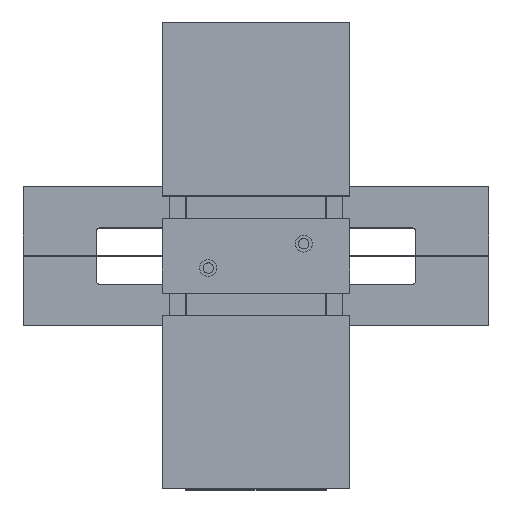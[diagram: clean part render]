
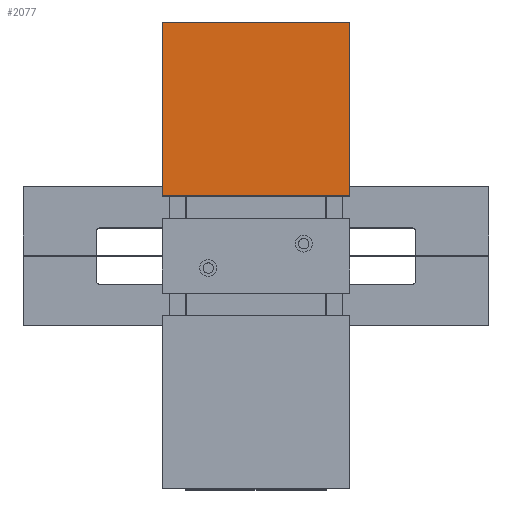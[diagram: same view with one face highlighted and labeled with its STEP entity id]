
A CAD part, top view. The second image highlights one B-rep face of the part: STEP entity #2077.
In plain terms, the highlighted planar face has unit normal (0, 0, 1).
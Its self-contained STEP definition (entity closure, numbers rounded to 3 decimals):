
#2077 = ADVANCED_FACE( '', ( #5460 ), #5461, .T. );
#5460 = FACE_OUTER_BOUND( '', #9431, .T. );
#5461 = PLANE( '', #9432 );
#9431 = EDGE_LOOP( '', ( #23860, #23861, #23862, #23863 ) );
#9432 = AXIS2_PLACEMENT_3D( '', #23864, #23865, #23866 );
#23860 = ORIENTED_EDGE( '', *, *, #29585, .T. );
#23861 = ORIENTED_EDGE( '', *, *, #29622, .T. );
#23862 = ORIENTED_EDGE( '', *, *, #29626, .T. );
#23863 = ORIENTED_EDGE( '', *, *, #29617, .T. );
#23864 = CARTESIAN_POINT( '', ( -92.5, -100., 49. ) );
#23865 = DIRECTION( '', ( 0., 0., 1. ) );
#23866 = DIRECTION( '', ( 1., 0., 0. ) );
#29585 = EDGE_CURVE( '', #36694, #36692, #36695, .T. );
#29617 = EDGE_CURVE( '', #36751, #36694, #36752, .T. );
#29622 = EDGE_CURVE( '', #36692, #36758, #36760, .T. );
#29626 = EDGE_CURVE( '', #36758, #36751, #36766, .T. );
#36692 = VERTEX_POINT( '', #50791 );
#36694 = VERTEX_POINT( '', #50794 );
#36695 = LINE( '', #50795, #50796 );
#36751 = VERTEX_POINT( '', #50872 );
#36752 = LINE( '', #50873, #50874 );
#36758 = VERTEX_POINT( '', #50882 );
#36760 = LINE( '', #50885, #50886 );
#36766 = LINE( '', #50894, #50895 );
#50791 = CARTESIAN_POINT( '', ( -92.5, -100., 49. ) );
#50794 = CARTESIAN_POINT( '', ( -92.5, 100., 49. ) );
#50795 = CARTESIAN_POINT( '', ( -92.5, 100., 49. ) );
#50796 = VECTOR( '', #56507, 1000. );
#50872 = CARTESIAN_POINT( '', ( 92.5, 100., 49. ) );
#50873 = CARTESIAN_POINT( '', ( 92.5, 100., 49. ) );
#50874 = VECTOR( '', #56561, 1000. );
#50882 = CARTESIAN_POINT( '', ( 92.5, -100., 49. ) );
#50885 = CARTESIAN_POINT( '', ( -92.5, -100., 49. ) );
#50886 = VECTOR( '', #56568, 1000. );
#50894 = CARTESIAN_POINT( '', ( 92.5, -100., 49. ) );
#50895 = VECTOR( '', #56574, 1000. );
#56507 = DIRECTION( '', ( 0., -1., 0. ) );
#56561 = DIRECTION( '', ( -1., 0., 0. ) );
#56568 = DIRECTION( '', ( 1., 0., 0. ) );
#56574 = DIRECTION( '', ( 0., 1., 0. ) );
